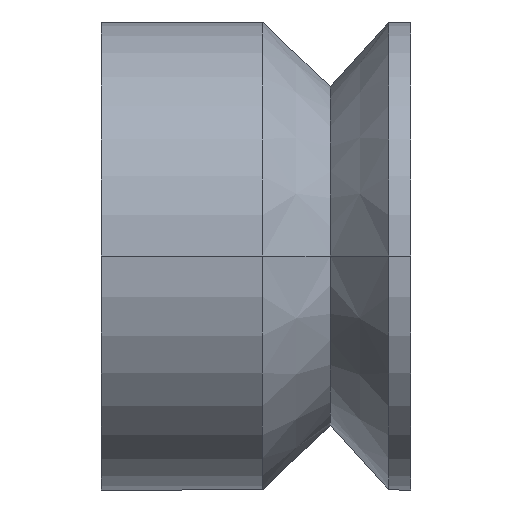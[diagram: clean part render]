
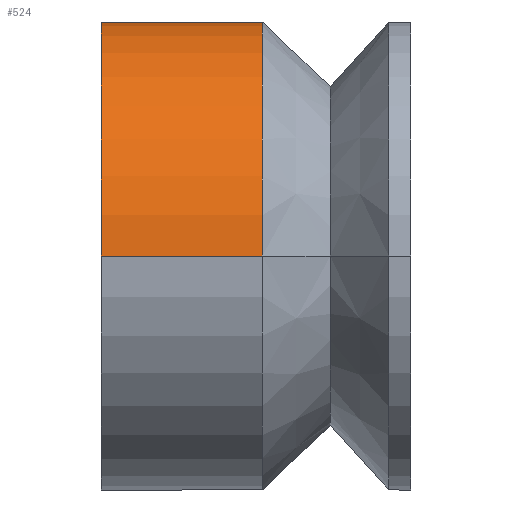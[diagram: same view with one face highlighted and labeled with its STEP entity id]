
A CAD part, left-side view. The second image highlights one B-rep face of the part: STEP entity #524.
In plain terms, the highlighted cylindrical face has radius 9.6 mm (diameter 19.2 mm), a partial arc.
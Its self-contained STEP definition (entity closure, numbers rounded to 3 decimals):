
#22 = DIRECTION ( 'NONE',  ( 0., -1., 0. ) ) ;
#36 = CARTESIAN_POINT ( 'NONE',  ( 0., -1.912, 0. ) ) ;
#163 = DIRECTION ( 'NONE',  ( 0., 0., 1. ) ) ;
#256 = VERTEX_POINT ( 'NONE', #546 ) ;
#262 = AXIS2_PLACEMENT_3D ( 'NONE', #782, #399, #163 ) ;
#285 = ORIENTED_EDGE ( 'NONE', *, *, #409, .F. ) ;
#307 = CARTESIAN_POINT ( 'NONE',  ( 0., 4.7, 9.6 ) ) ;
#334 = CIRCLE ( 'NONE', #262, 9.6 ) ;
#346 = DIRECTION ( 'NONE',  ( 0., -1., 0. ) ) ;
#351 = VERTEX_POINT ( 'NONE', #714 ) ;
#355 = CARTESIAN_POINT ( 'NONE',  ( -9.6, -1.912, 0. ) ) ;
#399 = DIRECTION ( 'NONE',  ( 0., -1., 0. ) ) ;
#409 = EDGE_CURVE ( 'NONE', #813, #649, #961, .T. ) ;
#473 = FACE_OUTER_BOUND ( 'NONE', #879, .T. ) ;
#505 = DIRECTION ( 'NONE',  ( 0., -1., 0. ) ) ;
#524 = ADVANCED_FACE ( 'NONE', ( #473 ), #787, .T. ) ;
#546 = CARTESIAN_POINT ( 'NONE',  ( 0., 4.7, 9.6 ) ) ;
#572 = DIRECTION ( 'NONE',  ( 0., 0., 1. ) ) ;
#591 = VECTOR ( 'NONE', #346, 1000. ) ;
#605 = AXIS2_PLACEMENT_3D ( 'NONE', #36, #22, #572 ) ;
#649 = VERTEX_POINT ( 'NONE', #355 ) ;
#682 = CARTESIAN_POINT ( 'NONE',  ( 0., 4.7, 0. ) ) ;
#714 = CARTESIAN_POINT ( 'NONE',  ( -9.6, 4.7, 0. ) ) ;
#717 = CARTESIAN_POINT ( 'NONE',  ( 0., -1.912, 9.6 ) ) ;
#724 = LINE ( 'NONE', #307, #888 ) ;
#733 = EDGE_CURVE ( 'NONE', #256, #813, #724, .T. ) ;
#764 = DIRECTION ( 'NONE',  ( 0., -1., 0. ) ) ;
#774 = LINE ( 'NONE', #812, #591 ) ;
#782 = CARTESIAN_POINT ( 'NONE',  ( 0., 4.7, 0. ) ) ;
#787 = CYLINDRICAL_SURFACE ( 'NONE', #880, 9.6 ) ;
#812 = CARTESIAN_POINT ( 'NONE',  ( -9.6, 4.7, 0. ) ) ;
#813 = VERTEX_POINT ( 'NONE', #717 ) ;
#833 = ORIENTED_EDGE ( 'NONE', *, *, #733, .F. ) ;
#835 = DIRECTION ( 'NONE',  ( 0., 0., -1. ) ) ;
#879 = EDGE_LOOP ( 'NONE', ( #833, #899, #932, #285 ) ) ;
#880 = AXIS2_PLACEMENT_3D ( 'NONE', #682, #505, #835 ) ;
#884 = EDGE_CURVE ( 'NONE', #256, #351, #334, .T. ) ;
#888 = VECTOR ( 'NONE', #764, 1000. ) ;
#899 = ORIENTED_EDGE ( 'NONE', *, *, #884, .T. ) ;
#932 = ORIENTED_EDGE ( 'NONE', *, *, #985, .T. ) ;
#961 = CIRCLE ( 'NONE', #605, 9.6 ) ;
#985 = EDGE_CURVE ( 'NONE', #351, #649, #774, .T. ) ;
